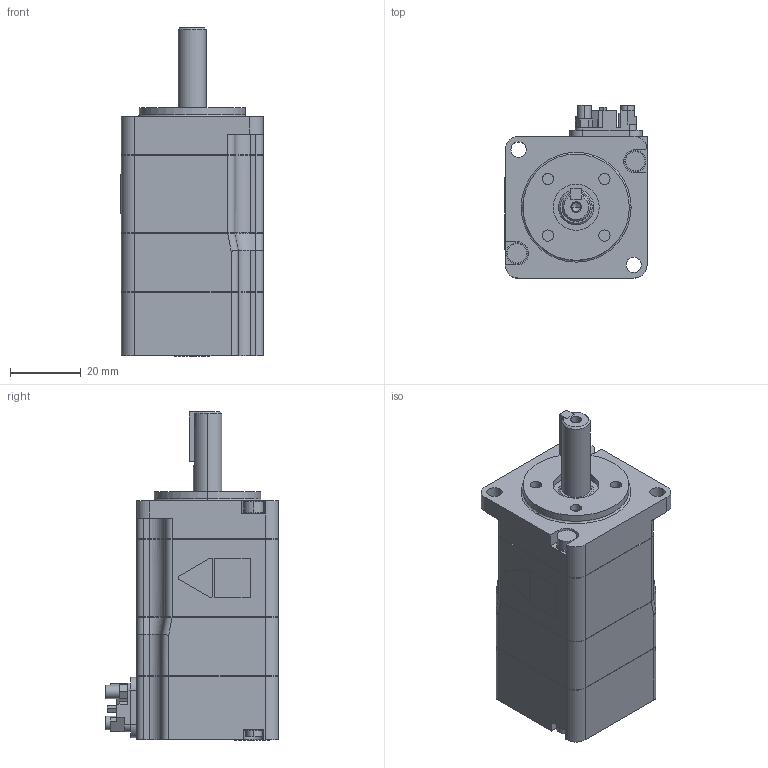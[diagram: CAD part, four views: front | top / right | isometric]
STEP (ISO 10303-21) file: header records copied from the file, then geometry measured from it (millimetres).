
FILE_DESCRIPTION( (''), '2;1');
FILE_NAME ('sgmxa-01aua61a_.stp','2022-04-04T17:33:29',(''),(''),'spGate 15.6.6','','');
FILE_SCHEMA (('AUTOMOTIVE_DESIGN'));
Length unit declared in the file: millimetre
Products named in the file (3): Assembly; sgmxa-01aua61a_-prt0; sgmxa-01aua61a_-prt1
Assembly tree (2 placements, depth 2):
  Assembly
    sgmxa-01aua61a_-prt0
    sgmxa-01aua61a_-prt1
Bounding box: 40.1 x 48.8 x 92.6 mm (x, y, z)
Volume: 103747.9 mm3; surface area: 17067.5 mm2
Topology: 2 solids, 2 shells, 352 faces, 917 edges, 606 vertices
Faces by surface type: plane 208, cylinder 129, bspline 15
Entity records: 18459 total; most frequent: CARTESIAN_POINT 2424, ORIENTED_EDGE 1830, DIRECTION 1757, COLOUR_RGB 1269, PRESENTATION_STYLE_ASSIGNMENT 1269, STYLED_ITEM 1269, EDGE_CURVE 915, DRAUGHTING_PRE_DEFINED_CURVE_FONT 915
